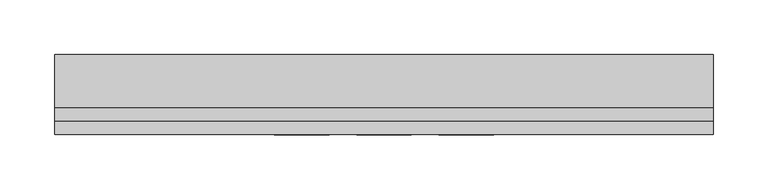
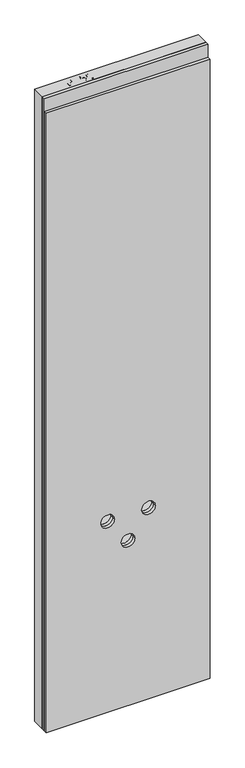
"""IFC4 building model written with IfcOpenShell, lengths in millimetres: proxy geometry, ParedeLavatório_Blufab : Parede Lavatório - Largura 60 cm."""

from ifc_helpers import new_model, si_unit, point, frame, frame_2d, origin, origin_with_axes, place, context, project, spatial, polyline, circle_curve, trimmed, segment, composite_curve, outline, extrude, source, transform, mapped, element, save


def generic_models_34b291b7(model_context):
    return source(origin(), model_context, "Body", "SweptSolid", [
        extrude(outline(polyline([(2450.0, 600.0), (2450.0, 0.0), (0.0, 0.0), (0.0, 600.0), (2450.0, 600.0)]), holes=[composite_curve([segment(trimmed(circle_curve(frame_2d((640.0, 300.0)), 25.0), [point((640.0, 325.0))], [point((640.0, 275.0))], True, "CARTESIAN"), True, "CONTINUOUS"), segment(trimmed(circle_curve(frame_2d((640.0, 300.0)), 25.0), [point((640.0, 275.0))], [point((640.0, 325.0))], True, "CARTESIAN"), True, "CONTINUOUS")], self_intersect=False), composite_curve([segment(trimmed(circle_curve(frame_2d((740.0, 375.0)), 25.0), [point((740.0, 400.0))], [point((740.0, 350.0))], True, "CARTESIAN"), True, "CONTINUOUS"), segment(trimmed(circle_curve(frame_2d((740.0, 375.0)), 25.0), [point((740.0, 350.0))], [point((740.0, 400.0))], True, "CARTESIAN"), True, "CONTINUOUS")], self_intersect=False), composite_curve([segment(trimmed(circle_curve(frame_2d((740.0, 225.0)), 25.0), [point((740.0, 250.0))], [point((740.0, 200.0))], True, "CARTESIAN"), True, "CONTINUOUS"), segment(trimmed(circle_curve(frame_2d((740.0, 225.0)), 25.0), [point((740.0, 200.0))], [point((740.0, 250.0))], True, "CARTESIAN"), True, "CONTINUOUS")], self_intersect=False)]), frame((0.0, 25.0126803, 0.0), z_axis=(0.0, 1.0, 0.0), x_axis=(0.0, 0.0, 1.0)), (0.0, 0.0, 1.0), 47.9873197),
        extrude(outline(polyline([(2450.0, 600.0), (2450.0, 0.0), (0.0, 0.0), (0.0, 600.0), (2450.0, 600.0)]), holes=[composite_curve([segment(trimmed(circle_curve(frame_2d((640.0, 300.0)), 25.0), [point((640.0, 325.0))], [point((640.0, 275.0))], True, "CARTESIAN"), True, "CONTINUOUS"), segment(trimmed(circle_curve(frame_2d((640.0, 300.0)), 25.0), [point((640.0, 275.0))], [point((640.0, 325.0))], True, "CARTESIAN"), True, "CONTINUOUS")], self_intersect=False), composite_curve([segment(trimmed(circle_curve(frame_2d((740.0, 375.0)), 25.0), [point((740.0, 400.0))], [point((740.0, 350.0))], True, "CARTESIAN"), True, "CONTINUOUS"), segment(trimmed(circle_curve(frame_2d((740.0, 375.0)), 25.0), [point((740.0, 350.0))], [point((740.0, 400.0))], True, "CARTESIAN"), True, "CONTINUOUS")], self_intersect=False), composite_curve([segment(trimmed(circle_curve(frame_2d((740.0, 225.0)), 25.0), [point((740.0, 250.0))], [point((740.0, 200.0))], True, "CARTESIAN"), True, "CONTINUOUS"), segment(trimmed(circle_curve(frame_2d((740.0, 225.0)), 25.0), [point((740.0, 200.0))], [point((740.0, 250.0))], True, "CARTESIAN"), True, "CONTINUOUS")], self_intersect=False)]), frame((0.0, 12.5126803, 0.0), z_axis=(0.0, 1.0, 0.0), x_axis=(0.0, 0.0, 1.0)), (0.0, 0.0, 1.0), 12.5),
        extrude(outline(polyline([(2400.0, 600.0), (2400.0, 0.0), (0.0, 0.0), (0.0, 600.0), (2400.0, 600.0)]), holes=[composite_curve([segment(trimmed(circle_curve(frame_2d((640.0, 300.0)), 25.0), [point((640.0, 325.0))], [point((640.0, 275.0))], True, "CARTESIAN"), True, "CONTINUOUS"), segment(trimmed(circle_curve(frame_2d((640.0, 300.0)), 25.0), [point((640.0, 275.0))], [point((640.0, 325.0))], True, "CARTESIAN"), True, "CONTINUOUS")], self_intersect=False), composite_curve([segment(trimmed(circle_curve(frame_2d((740.0, 375.0)), 25.0), [point((740.0, 400.0))], [point((740.0, 350.0))], True, "CARTESIAN"), True, "CONTINUOUS"), segment(trimmed(circle_curve(frame_2d((740.0, 375.0)), 25.0), [point((740.0, 350.0))], [point((740.0, 400.0))], True, "CARTESIAN"), True, "CONTINUOUS")], self_intersect=False), composite_curve([segment(trimmed(circle_curve(frame_2d((740.0, 225.0)), 25.0), [point((740.0, 250.0))], [point((740.0, 200.0))], True, "CARTESIAN"), True, "CONTINUOUS"), segment(trimmed(circle_curve(frame_2d((740.0, 225.0)), 25.0), [point((740.0, 200.0))], [point((740.0, 250.0))], True, "CARTESIAN"), True, "CONTINUOUS")], self_intersect=False)]), frame((0.0, 0.0, 0.0), z_axis=(0.0, 1.0, 0.0), x_axis=(0.0, 0.0, 1.0)), (0.0, 0.0, 1.0), 12.5),
        extrude(outline(polyline([(104.7946604, 34.0063401), (104.7946604, 64.1432332), (115.9635578, 64.1432332), (120.4664334, 63.8562852), (124.1268593, 62.4472972), (126.4996981, 59.5336718), (127.3973302, 55.4244299), (124.9729879, 48.9129186), (116.2210752, 46.2494529), (108.5617721, 46.2494529), (108.5617721, 34.0063401), (104.7946604, 34.0063401)]), holes=[polyline([(108.5617721, 50.0165646), (116.4418044, 50.0165646), (121.9894649, 51.3998009), (123.6302186, 55.2919924), (122.6626889, 58.4116317), (120.1206244, 60.1186041), (116.3535127, 60.3761215), (108.5617721, 60.3761215), (108.5617721, 50.0165646)])]), origin_with_axes(), (0.0, 0.0, 1.0), 2450.0),
        extrude(outline(polyline([(132.5771087, 34.0063401), (132.5771087, 64.1432332), (136.3442203, 64.1432332), (136.3442203, 37.7734518), (151.4126669, 37.7734518), (151.4126669, 34.0063401), (132.5771087, 34.0063401)])), origin_with_axes(), (0.0, 0.0, 1.0), 2450.0),
        extrude(outline(polyline([(173.5444477, 56.138121), (169.7773361, 55.667232), (168.3499539, 58.8089442), (164.5754846, 60.3761215), (161.176255, 59.4637742), (158.6047599, 56.0387928), (157.5342233, 49.3249464), (160.8561977, 52.3305423), (164.9727972, 53.3127872), (171.3739439, 50.6272487), (174.0153366, 43.6889942), (172.7718955, 38.4908216), (169.3505929, 34.8120017), (164.4136166, 33.5354512), (156.7359193, 36.9199655), (153.7671116, 48.0741476), (157.0633343, 60.7072153), (164.8109291, 64.1432332), (170.7632598, 62.0168752), (173.5444477, 56.138121)]), holes=[polyline([(157.5342233, 43.7478554), (158.4061036, 40.4847421), (160.7237602, 38.115582), (164.119311, 37.3025628), (168.5596467, 38.9874623), (170.248225, 43.5639144), (168.5817196, 47.9453889), (163.9648005, 49.5456756), (159.4067426, 47.9453889), (157.5342233, 43.7478554)])]), origin_with_axes(), (0.0, 0.0, 1.0), 2450.0),
        extrude(outline(polyline([(177.3115593, 48.8319845), (178.4188841, 57.5029632), (181.7077492, 62.5024795), (187.2002274, 64.1432332), (191.600096, 63.1720247), (194.6388013, 60.3724427), (196.4046349, 55.9137129), (197.0888954, 48.8319845), (195.992607, 40.1977941), (192.7147785, 35.1872413), (187.2002274, 33.5354512), (180.3134764, 36.4049307), (177.3115593, 48.8319845)]), holes=[polyline([(181.078671, 48.8393422), (182.8445045, 39.484103), (187.2002274, 37.3025628), (191.5559502, 39.4914607), (193.3217838, 48.8393422), (191.6148113, 58.0878955), (187.1560815, 60.3761215), (182.9033656, 58.3601282), (181.078671, 48.8393422)])]), origin_with_axes(), (0.0, 0.0, 1.0), 2450.0),
    ])


if __name__ == "__main__":
    model = new_model("IFC4")
    model_context = context("Model", 3, world=origin())
    ifc_project = project(units=[si_unit("LENGTHUNIT", "METRE", prefix="MILLI")], contexts=[model_context])
    site = spatial("IfcSite", under=ifc_project)
    building = spatial("IfcBuilding", under=site)
    placement = place(None, origin())
    generic_models_shape = generic_models_34b291b7(model_context)
    element("IfcBuildingElementProxy", 1, Name="ParedeLavatório_Blufab : Parede Lavatório - Largura 60 cm", ObjectType="ParedeLavatório_Blufab : Parede Lavatório - Largura 60 cm", at=placement, inside=building, context=model_context, shape_type="MappedRepresentation", body=[
        mapped(generic_models_shape, transform((0.0, 0.0, 0.0), x_axis=(1.0, 0.0, 0.0), y_axis=(0.0, 1.0, 0.0), z_axis=(0.0, 0.0, 1.0))),
    ])
    save(model, "model.ifc")
